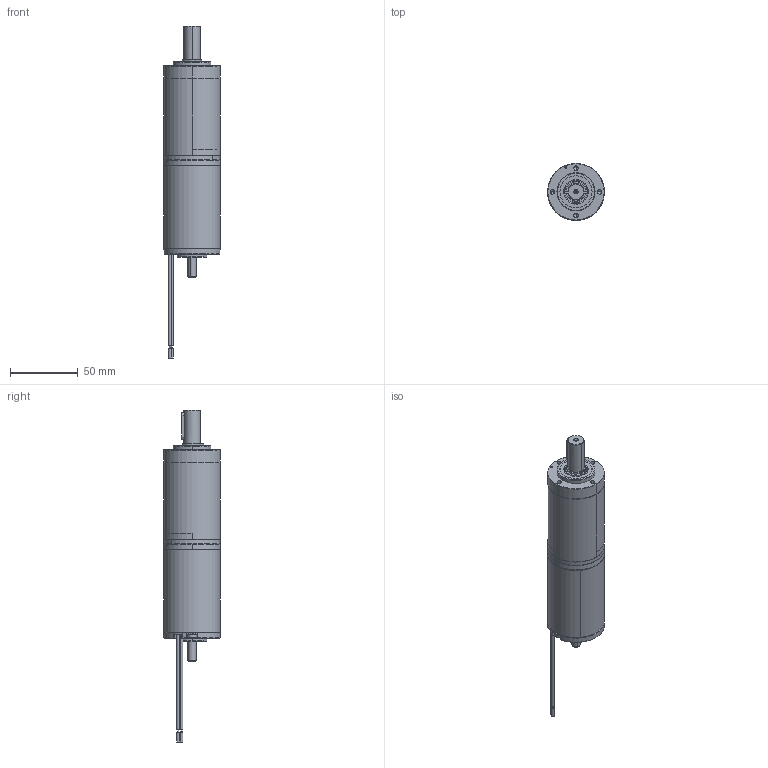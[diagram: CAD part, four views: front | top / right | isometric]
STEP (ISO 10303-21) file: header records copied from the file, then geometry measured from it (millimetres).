
FILE_DESCRIPTION (( 'STEP AP214' ), '1' );
FILE_NAME ('BRx42-25-PGx42 (3 Stage).STEP', '2025-05-12T11:12:21', ( '' ), ( '' ), 'SwSTEP 2.0', 'SolidWorks 2023', '' );
FILE_SCHEMA (( 'AUTOMOTIVE_DESIGN' ));
Length unit declared in the file: millimetre
Products named in the file (1): BRx42-25-PGx42 (3 Stage)
Bounding box: 42 x 42 x 245.35 mm (x, y, z)
Volume: 131246 mm3; surface area: 52434.9 mm2
Topology: 16 solids, 16 shells, 1557 faces, 3762 edges, 2354 vertices
Faces by surface type: plane 515, cylinder 316, cone 310, torus 214, bspline 186, sphere 16
Entity records: 72696 total; most frequent: CARTESIAN_POINT 19846, ORIENTED_EDGE 7500, DIRECTION 7292, EDGE_CURVE 3750, AXIS2_PLACEMENT_3D 2956, VERTEX_POINT 2354, EDGE_LOOP 1732, CIRCLE 1584
